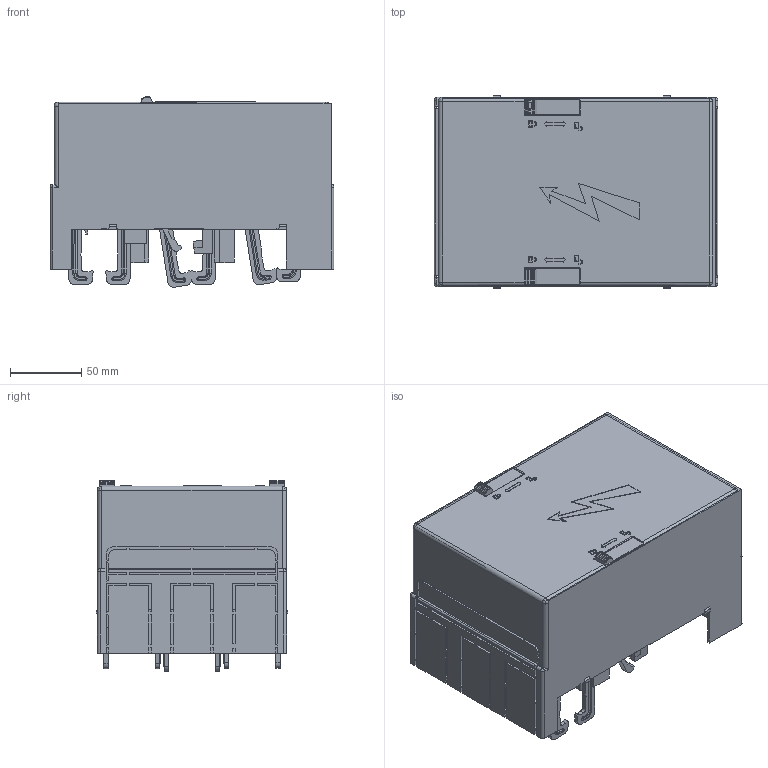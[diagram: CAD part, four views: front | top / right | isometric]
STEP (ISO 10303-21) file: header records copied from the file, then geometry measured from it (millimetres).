
FILE_DESCRIPTION (( 'STEP AP214' ), '1' );
FILE_NAME ('54753.STEP', '2020-11-23T02:21:03', ( '' ), ( '' ), 'SwSTEP 2.0', 'SolidWorks 2017', '' );
FILE_SCHEMA (( 'AUTOMOTIVE_DESIGN' ));
Length unit declared in the file: millimetre
Products named in the file (2): 54753
Bounding box: 199.5 x 135 x 134 mm (x, y, z)
Volume: 2358470.2 mm3; surface area: 204716.8 mm2
Topology: 1 solids, 1 shells, 2664 faces, 6854 edges, 4315 vertices
Faces by surface type: plane 1281, cylinder 823, bspline 560
Entity records: 141097 total; most frequent: CARTESIAN_POINT 54249, ORIENTED_EDGE 13694, DIRECTION 9393, EDGE_CURVE 6847, VERTEX_POINT 4315, LINE 3943, VECTOR 3943, EDGE_LOOP 2862
